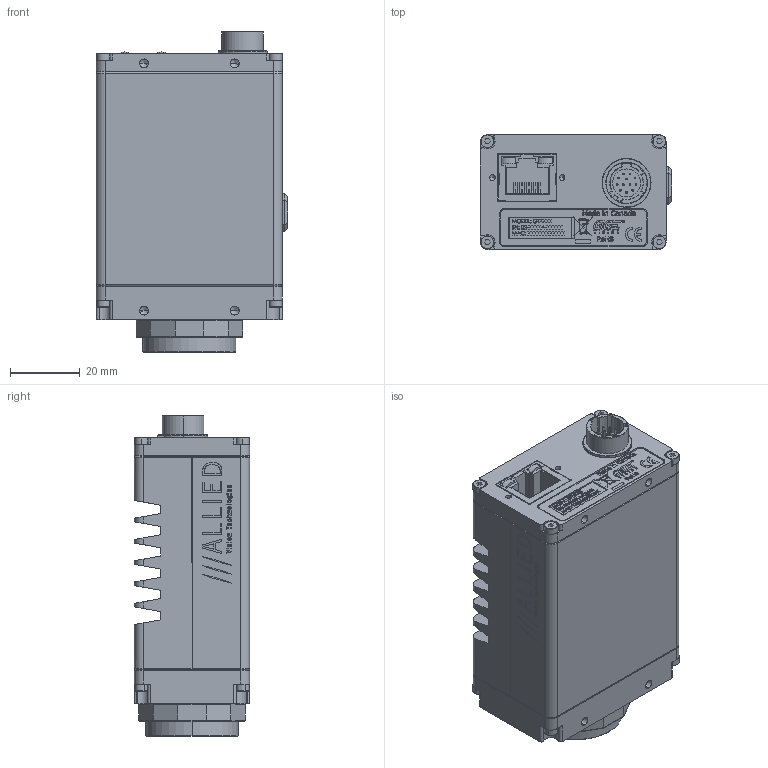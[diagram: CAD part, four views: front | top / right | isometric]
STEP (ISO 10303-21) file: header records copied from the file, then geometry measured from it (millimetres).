
FILE_DESCRIPTION (( 'STEP AP214' ), '1' );
FILE_NAME ('GT2300M CAMERAS ASSY.STEP', '2013-08-01T19:12:26', ( '' ), ( '' ), 'SwSTEP 2.0', 'SolidWorks 2013', '' );
FILE_SCHEMA (( 'AUTOMOTIVE_DESIGN' ));
Length unit declared in the file: millimetre
Products named in the file (23): CONN_AMPHENOL_RJHSE-5481; GT TOP COVER_110161A-GT TOP COVER LONG; 260034-HIROSE HR10A-10R-12PB NUT; 110031A-B EC-CCD LOCKING RING; KODAK KAI-04050 WINDOW; 220180-KODAK KAI-04050-ABA; GT BOT COVER_110160A-GT BOT COVER LONG; 260034-HIROSE HR10A-10R-12PB WASHER; 200130A-GT CONTROL FAST; 110162A-GT FRONT PLATE LF; GT FRONT ASSY KODAK SF_100202A-GT2300M FRONT ASSY; 260034-HIROSE HR10A-10R-12PB; LABEL PRINTOUT; 140061-SCREW SKT CAP M2x8 SS; 100191A-GT BACK ASSY; 740144A-GT SERIES LABEL; 110153A-GT BACK PLATE; KODAK KAI-04050 BODY; GT BODY ASSY_100192A-GT BODY ASSY FAST; 110103A-GX CCD GASKET; GT2300M CAMERAS ASSY; 110003AC-CV CMOUNT RING; CONN_KOBICONN_163-157J-E
Assembly tree (29 placements, depth 4):
  GT2300M CAMERAS ASSY
    140061-SCREW SKT CAP M2x8 SS  x4
    GT FRONT ASSY KODAK SF_100202A-GT2300M FRONT ASSY
      110103A-GX CCD GASKET
      110031A-B EC-CCD LOCKING RING
      220180-KODAK KAI-04050-ABA
        KODAK KAI-04050 WINDOW
        KODAK KAI-04050 BODY
      110162A-GT FRONT PLATE LF
      110003AC-CV CMOUNT RING
    LABEL PRINTOUT
    740144A-GT SERIES LABEL
    GT BODY ASSY_100192A-GT BODY ASSY FAST
      GT TOP COVER_110161A-GT TOP COVER LONG
      140061-SCREW SKT CAP M2x8 SS  x4
      GT BOT COVER_110160A-GT BOT COVER LONG
      100191A-GT BACK ASSY
        260034-HIROSE HR10A-10R-12PB
        110153A-GT BACK PLATE
        260034-HIROSE HR10A-10R-12PB NUT
        260034-HIROSE HR10A-10R-12PB WASHER
      200130A-GT CONTROL FAST
        CONN_KOBICONN_163-157J-E
        CONN_AMPHENOL_RJHSE-5481
Bounding box: 54.83 x 33.02 x 91.93 mm (x, y, z)
Volume: 64869.8 mm3; surface area: 54386.4 mm2
Topology: 40 solids, 40 shells, 3809 faces, 9894 edges, 6418 vertices
Faces by surface type: plane 2205, cylinder 711, bspline 641, cone 252
Entity records: 176743 total; most frequent: CARTESIAN_POINT 48231, ORIENTED_EDGE 18996, DIRECTION 15938, EDGE_CURVE 9498, LINE 6688, VECTOR 6688, VERTEX_POINT 6236, AXIS2_PLACEMENT_3D 4625
